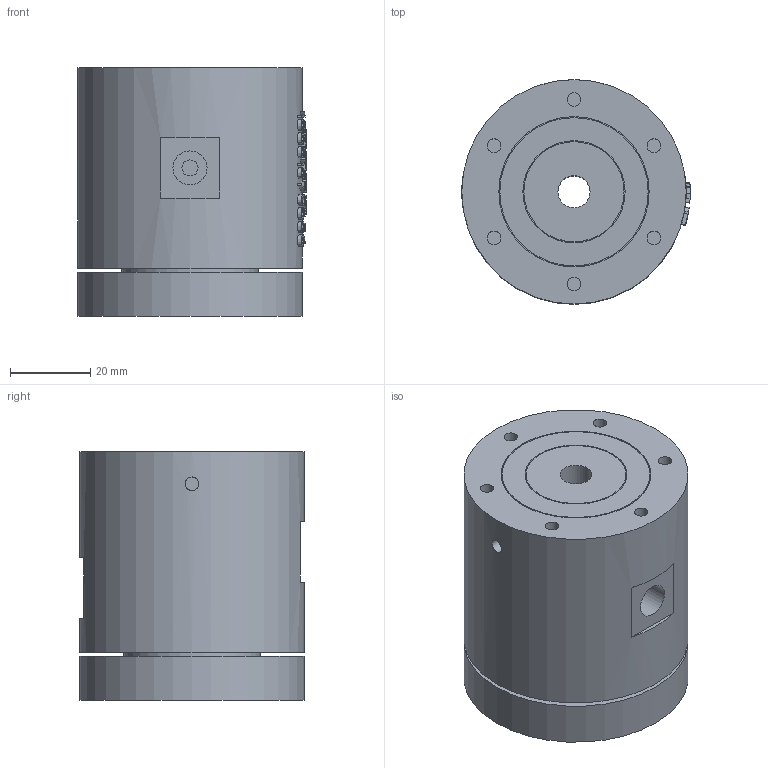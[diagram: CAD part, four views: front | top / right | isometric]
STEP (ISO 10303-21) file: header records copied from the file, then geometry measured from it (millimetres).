
FILE_DESCRIPTION(/* description */ (''),/* implementation_level */ '2;1');
FILE_NAME(/* name */ 'HQD02001.stp',/* time_stamp */ '2024-07-01T11:26:13+08:00',/* author */ (''),/* organization */ (''),/* preprocessor_version */ 'ST-DEVELOPER v16.7',/* originating_system */ 'SIEMENS PLM Software NX 12.0',/* authorisation */ '');
FILE_SCHEMA (('AUTOMOTIVE_DESIGN { 1 0 10303 214 3 1 1 1 }'));
Length unit declared in the file: millimetre
Products named in the file (1): 86130A48DBE8x8if
Bounding box: 57 x 56 x 62 mm (x, y, z)
Volume: 144440.6 mm3; surface area: 23930 mm2
Topology: 1 solids, 1 shells, 370 faces, 926 edges, 619 vertices
Faces by surface type: extrusion 157, plane 147, cylinder 39, bspline 27
Full cylindrical faces by diameter (mm): 3.4 x12, 4 x4, 8 x1, 8.5 x4, 25 x1, 25.5 x1, 34 x1, 37 x1, 37.5 x1, 56 x2
Entity records: 16430 total; most frequent: CARTESIAN_POINT 8395, ORIENTED_EDGE 1768, DIRECTION 1157, EDGE_CURVE 884, VERTEX_POINT 612, B_SPLINE_CURVE_WITH_KNOTS 540, VECTOR 533, EDGE_LOOP 476
